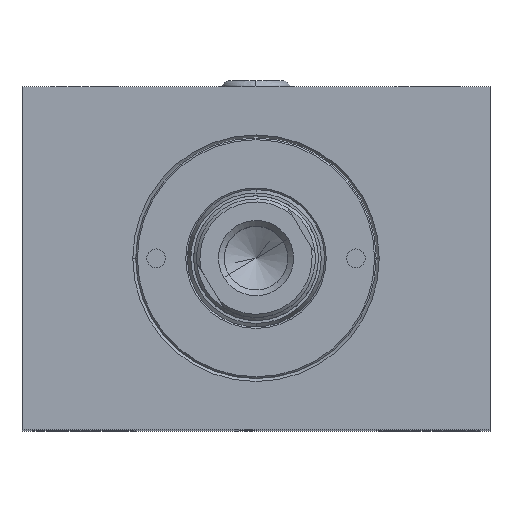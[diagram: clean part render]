
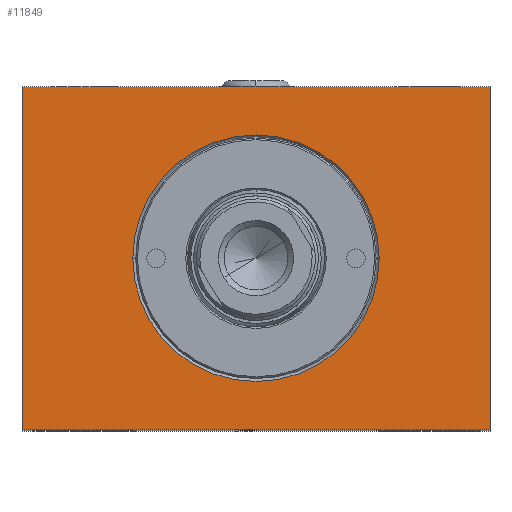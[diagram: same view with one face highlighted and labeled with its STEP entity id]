
A CAD part, top view. The second image highlights one B-rep face of the part: STEP entity #11849.
In plain terms, the highlighted planar face has unit normal (0, 0, 1).
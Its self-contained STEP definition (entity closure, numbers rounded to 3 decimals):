
#13 = LINE ( 'NONE', #4380, #4744 ) ;
#256 = CARTESIAN_POINT ( 'NONE',  ( 0., 0., 145. ) ) ;
#719 = ORIENTED_EDGE ( 'NONE', *, *, #2195, .T. ) ;
#769 = CARTESIAN_POINT ( 'NONE',  ( 75., 55., 145. ) ) ;
#1345 = ORIENTED_EDGE ( 'NONE', *, *, #10537, .T. ) ;
#1478 = VECTOR ( 'NONE', #4670, 1000. ) ;
#1857 = FACE_OUTER_BOUND ( 'NONE', #4875, .T. ) ;
#2195 = EDGE_CURVE ( 'NONE', #11272, #8686, #4481, .T. ) ;
#2472 = DIRECTION ( 'NONE',  ( 0., 0., -1. ) ) ;
#2501 = VECTOR ( 'NONE', #6473, 1000. ) ;
#2811 = CARTESIAN_POINT ( 'NONE',  ( 0., 0., 145. ) ) ;
#3510 = CARTESIAN_POINT ( 'NONE',  ( 17.75, 27.5, 145. ) ) ;
#3745 = LINE ( 'NONE', #7033, #4419 ) ;
#3775 = VERTEX_POINT ( 'NONE', #5640 ) ;
#4130 = ORIENTED_EDGE ( 'NONE', *, *, #11065, .T. ) ;
#4294 = PLANE ( 'NONE',  #6140 ) ;
#4380 = CARTESIAN_POINT ( 'NONE',  ( 0., 55., 145. ) ) ;
#4419 = VECTOR ( 'NONE', #6176, 1000. ) ;
#4430 = CARTESIAN_POINT ( 'NONE',  ( 37.5, 27.5, 145. ) ) ;
#4481 = LINE ( 'NONE', #4628, #1478 ) ;
#4628 = CARTESIAN_POINT ( 'NONE',  ( 0., 0., 145. ) ) ;
#4670 = DIRECTION ( 'NONE',  ( 1., 0., 0. ) ) ;
#4744 = VECTOR ( 'NONE', #7465, 1000. ) ;
#4822 = EDGE_CURVE ( 'NONE', #11618, #3775, #13, .T. ) ;
#4875 = EDGE_LOOP ( 'NONE', ( #8651, #719, #1345, #9670 ) ) ;
#5348 = CIRCLE ( 'NONE', #9444, 19.75 ) ;
#5640 = CARTESIAN_POINT ( 'NONE',  ( 0., 55., 145. ) ) ;
#6140 = AXIS2_PLACEMENT_3D ( 'NONE', #10340, #9433, #8521 ) ;
#6176 = DIRECTION ( 'NONE',  ( 0., 1., 0. ) ) ;
#6473 = DIRECTION ( 'NONE',  ( 0., -1., 0. ) ) ;
#7033 = CARTESIAN_POINT ( 'NONE',  ( 75., 0., 145. ) ) ;
#7465 = DIRECTION ( 'NONE',  ( -1., 0., 0. ) ) ;
#7640 = CARTESIAN_POINT ( 'NONE',  ( 57.25, 27.5, 145. ) ) ;
#8521 = DIRECTION ( 'NONE',  ( -1., 0., 0. ) ) ;
#8651 = ORIENTED_EDGE ( 'NONE', *, *, #11081, .T. ) ;
#8686 = VERTEX_POINT ( 'NONE', #9437 ) ;
#9235 = EDGE_CURVE ( 'NONE', #11932, #12840, #10898, .T. ) ;
#9323 = LINE ( 'NONE', #256, #2501 ) ;
#9376 = ORIENTED_EDGE ( 'NONE', *, *, #9235, .T. ) ;
#9433 = DIRECTION ( 'NONE',  ( 0., 0., -1. ) ) ;
#9437 = CARTESIAN_POINT ( 'NONE',  ( 75., 0., 145. ) ) ;
#9444 = AXIS2_PLACEMENT_3D ( 'NONE', #4430, #2472, #11351 ) ;
#9670 = ORIENTED_EDGE ( 'NONE', *, *, #4822, .T. ) ;
#9676 = CARTESIAN_POINT ( 'NONE',  ( 37.5, 27.5, 145. ) ) ;
#10340 = CARTESIAN_POINT ( 'NONE',  ( 0., 0., 145. ) ) ;
#10537 = EDGE_CURVE ( 'NONE', #8686, #11618, #3745, .T. ) ;
#10879 = FACE_BOUND ( 'NONE', #12703, .T. ) ;
#10898 = CIRCLE ( 'NONE', #11850, 19.75 ) ;
#11065 = EDGE_CURVE ( 'NONE', #12840, #11932, #5348, .T. ) ;
#11081 = EDGE_CURVE ( 'NONE', #3775, #11272, #9323, .T. ) ;
#11272 = VERTEX_POINT ( 'NONE', #2811 ) ;
#11351 = DIRECTION ( 'NONE',  ( -1., 0., 0. ) ) ;
#11618 = VERTEX_POINT ( 'NONE', #769 ) ;
#11643 = DIRECTION ( 'NONE',  ( 0., 0., -1. ) ) ;
#11688 = DIRECTION ( 'NONE',  ( -1., 0., 0. ) ) ;
#11849 = ADVANCED_FACE ( 'NONE', ( #10879, #1857 ), #4294, .F. ) ;
#11850 = AXIS2_PLACEMENT_3D ( 'NONE', #9676, #11643, #11688 ) ;
#11932 = VERTEX_POINT ( 'NONE', #7640 ) ;
#12703 = EDGE_LOOP ( 'NONE', ( #9376, #4130 ) ) ;
#12840 = VERTEX_POINT ( 'NONE', #3510 ) ;
